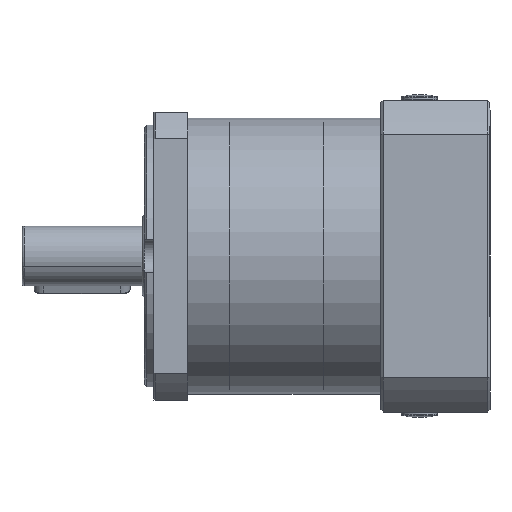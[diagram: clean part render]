
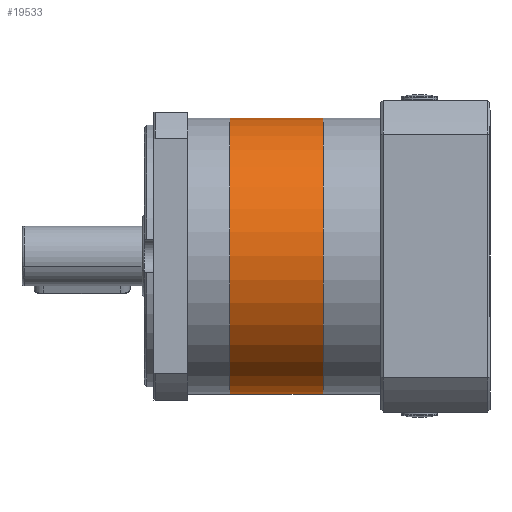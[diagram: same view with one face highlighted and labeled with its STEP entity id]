
A CAD part, front view. The second image highlights one B-rep face of the part: STEP entity #19533.
In plain terms, the highlighted cylindrical face has radius 57.5 mm (diameter 115 mm), a partial arc.
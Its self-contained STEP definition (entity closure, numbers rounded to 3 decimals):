
#1667 = VECTOR ( 'NONE', #23372, 1000. ) ;
#2886 = EDGE_CURVE ( 'NONE', #19733, #8221, #9411, .T. ) ;
#5014 = AXIS2_PLACEMENT_3D ( 'NONE', #17177, #31712, #31836 ) ;
#6291 = AXIS2_PLACEMENT_3D ( 'NONE', #25605, #34264, #28659 ) ;
#6600 = ORIENTED_EDGE ( 'NONE', *, *, #33418, .F. ) ;
#8221 = VERTEX_POINT ( 'NONE', #31439 ) ;
#8642 = VERTEX_POINT ( 'NONE', #16730 ) ;
#9411 = LINE ( 'NONE', #37774, #1667 ) ;
#9614 = LINE ( 'NONE', #37802, #11948 ) ;
#10266 = CARTESIAN_POINT ( 'NONE',  ( 35.5, 0., -57.5 ) ) ;
#11948 = VECTOR ( 'NONE', #17784, 1000. ) ;
#14890 = EDGE_CURVE ( 'NONE', #19733, #8642, #24632, .T. ) ;
#14973 = CARTESIAN_POINT ( 'NONE',  ( 35.5, 0., 0. ) ) ;
#15050 = EDGE_LOOP ( 'NONE', ( #6600, #18871, #29212, #25502 ) ) ;
#15700 = AXIS2_PLACEMENT_3D ( 'NONE', #14973, #23898, #29276 ) ;
#16730 = CARTESIAN_POINT ( 'NONE',  ( 35.5, 0., 57.5 ) ) ;
#17177 = CARTESIAN_POINT ( 'NONE',  ( 74.5, 0., 0. ) ) ;
#17784 = DIRECTION ( 'NONE',  ( 1., 0., 0. ) ) ;
#18871 = ORIENTED_EDGE ( 'NONE', *, *, #14890, .F. ) ;
#19533 = ADVANCED_FACE ( 'NONE', ( #21689 ), #36266, .T. ) ;
#19733 = VERTEX_POINT ( 'NONE', #10266 ) ;
#20413 = VERTEX_POINT ( 'NONE', #23097 ) ;
#21689 = FACE_OUTER_BOUND ( 'NONE', #15050, .T. ) ;
#23097 = CARTESIAN_POINT ( 'NONE',  ( 74.5, 0., 57.5 ) ) ;
#23372 = DIRECTION ( 'NONE',  ( 1., 0., 0. ) ) ;
#23898 = DIRECTION ( 'NONE',  ( -1., 0., 0. ) ) ;
#24632 = CIRCLE ( 'NONE', #15700, 57.5 ) ;
#25502 = ORIENTED_EDGE ( 'NONE', *, *, #35538, .T. ) ;
#25605 = CARTESIAN_POINT ( 'NONE',  ( 35.5, 0., 0. ) ) ;
#28659 = DIRECTION ( 'NONE',  ( 0., 0., -1. ) ) ;
#29212 = ORIENTED_EDGE ( 'NONE', *, *, #2886, .T. ) ;
#29276 = DIRECTION ( 'NONE',  ( 0., 0., 1. ) ) ;
#31439 = CARTESIAN_POINT ( 'NONE',  ( 74.5, 0., -57.5 ) ) ;
#31712 = DIRECTION ( 'NONE',  ( -1., 0., 0. ) ) ;
#31836 = DIRECTION ( 'NONE',  ( 0., 0., 1. ) ) ;
#33418 = EDGE_CURVE ( 'NONE', #8642, #20413, #9614, .T. ) ;
#34264 = DIRECTION ( 'NONE',  ( 1., 0., 0. ) ) ;
#35538 = EDGE_CURVE ( 'NONE', #8221, #20413, #36869, .T. ) ;
#36266 = CYLINDRICAL_SURFACE ( 'NONE', #6291, 57.5 ) ;
#36869 = CIRCLE ( 'NONE', #5014, 57.5 ) ;
#37774 = CARTESIAN_POINT ( 'NONE',  ( 35.5, 0., -57.5 ) ) ;
#37802 = CARTESIAN_POINT ( 'NONE',  ( 35.5, 0., 57.5 ) ) ;
